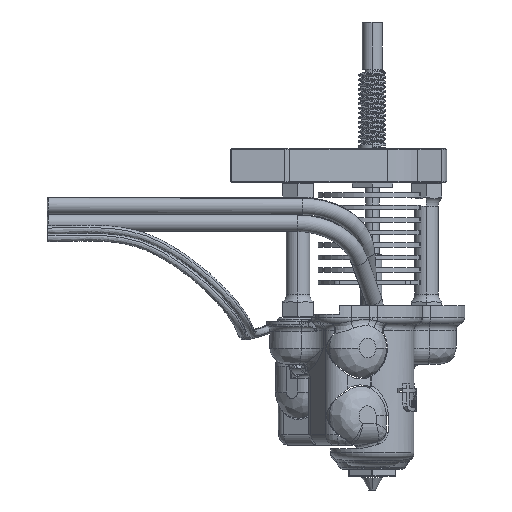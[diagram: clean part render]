
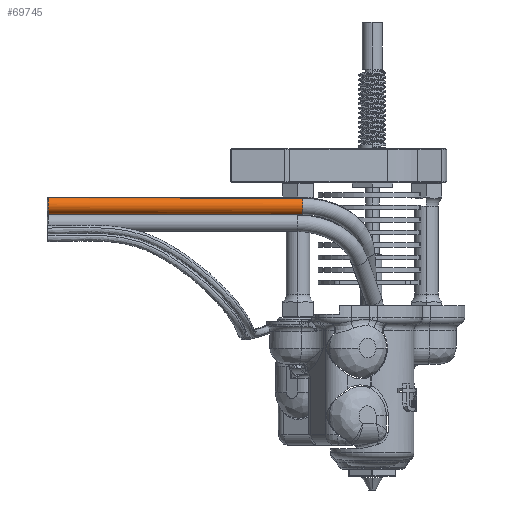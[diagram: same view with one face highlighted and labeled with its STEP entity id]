
A CAD part, left-side view. The second image highlights one B-rep face of the part: STEP entity #69745.
In plain terms, the highlighted cylindrical face has radius 1.25 mm (diameter 2.5 mm), a partial arc.
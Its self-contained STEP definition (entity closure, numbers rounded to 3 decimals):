
#69185=CARTESIAN_POINT('',(-22.282,48.011,16.1));
#69186=DIRECTION('',(-0.073,0.997,0.002));
#69187=DIRECTION('',(0.393,0.031,-0.919));
#69188=AXIS2_PLACEMENT_3D('',#69185,#69186,#69187);
#69195=CARTESIAN_POINT('',(-19.532,10.386,
16.019));
#69196=DIRECTION('',(-0.073,0.997,0.002));
#69197=DIRECTION('',(0.393,0.031,-0.919));
#69198=AXIS2_PLACEMENT_3D('',#69195,#69196,#69197);
#69200=DIRECTION('',(-0.073,0.997,0.002));
#69201=VECTOR('',#69200,37.725);
#69202=CARTESIAN_POINT('',(-19.041,10.424,
14.87));
#69203=LINE('5644',#69202,#69201);
#69209=DIRECTION('',(-0.073,0.997,0.002));
#69210=VECTOR('',#69209,37.725);
#69211=CARTESIAN_POINT('',(-20.022,10.348,
17.168));
#69212=LINE('5645',#69211,#69210);
#69253=CARTESIAN_POINT('',(-19.041,10.424,
14.87));
#69254=CARTESIAN_POINT('',(-20.022,10.348,
17.168));
#69255=VERTEX_POINT('',#69253);
#69256=VERTEX_POINT('',#69254);
#69257=CARTESIAN_POINT('',(-21.791,48.049,
14.951));
#69258=CARTESIAN_POINT('',(-22.773,47.972,
17.249));
#69259=VERTEX_POINT('',#69257);
#69260=VERTEX_POINT('',#69258);
#69732=CARTESIAN_POINT('',(-19.532,10.386,
16.019));
#69733=DIRECTION('',(-0.073,0.997,0.002));
#69734=DIRECTION('',(0.393,0.031,-0.919));
#69735=AXIS2_PLACEMENT_3D('',#69732,#69733,#69734);
#69736=CYLINDRICAL_SURFACE('5606',#69735,1.25);
#69737=ORIENTED_EDGE('5638',*,*,#69662,.F.);
#69739=ORIENTED_EDGE('5644',*,*,#69738,.T.);
#69740=ORIENTED_EDGE('5642',*,*,#69713,.T.);
#69742=ORIENTED_EDGE('5645',*,*,#69741,.F.);
#69743=EDGE_LOOP('5606',(#69737,#69739,#69740,#69742));
#69744=FACE_OUTER_BOUND('5606',#69743,.F.);
#69189=CIRCLE('5642',#69188,1.25);
#69199=CIRCLE('5638',#69198,1.25);
#69662=EDGE_CURVE('5638',#69255,#69256,#69199,.T.);
#69713=EDGE_CURVE('5642',#69259,#69260,#69189,.T.);
#69738=EDGE_CURVE('5644',#69255,#69259,#69203,.T.);
#69741=EDGE_CURVE('5645',#69256,#69260,#69212,.T.);
#69745=ADVANCED_FACE('5606',(#69744),#69736,.T.);
